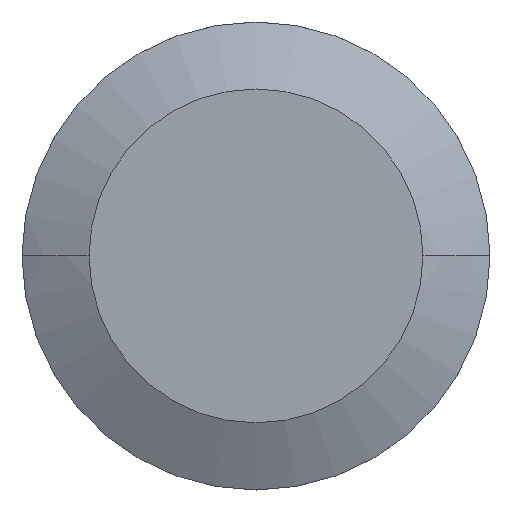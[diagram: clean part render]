
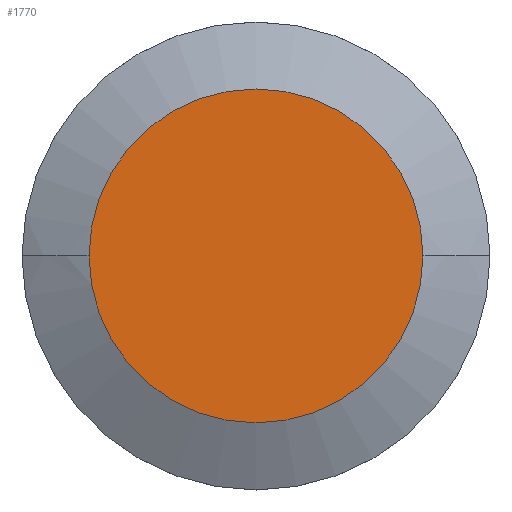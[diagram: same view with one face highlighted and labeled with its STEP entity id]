
A CAD part, top view. The second image highlights one B-rep face of the part: STEP entity #1770.
In plain terms, the highlighted planar face has unit normal (0, 0, 1).
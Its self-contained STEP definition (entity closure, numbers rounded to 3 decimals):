
#1549=CARTESIAN_POINT('',(0.,0.,23.8));
#1550=DIRECTION('',(0.,0.,-1.));
#1551=DIRECTION('',(1.,0.,0.));
#1552=AXIS2_PLACEMENT_3D('',#1549,#1550,#1551);
#1603=CARTESIAN_POINT('',(0.,0.,23.8));
#1604=DIRECTION('',(0.,0.,1.));
#1605=DIRECTION('',(1.,0.,0.));
#1606=AXIS2_PLACEMENT_3D('',#1603,#1604,#1605);
#1660=CARTESIAN_POINT('',(7.848,0.,23.8));
#1662=VERTEX_POINT('',#1660);
#1672=CARTESIAN_POINT('',(-7.848,0.,23.8));
#1674=VERTEX_POINT('',#1672);
#1759=CARTESIAN_POINT('',(0.,0.,23.8));
#1760=DIRECTION('',(0.,0.,-1.));
#1761=DIRECTION('',(1.,0.,0.));
#1762=AXIS2_PLACEMENT_3D('',#1759,#1760,#1761);
#1763=PLANE('',#1762);
#1765=ORIENTED_EDGE('',*,*,#1764,.F.);
#1767=ORIENTED_EDGE('',*,*,#1766,.T.);
#1768=EDGE_LOOP('',(#1765,#1767));
#1769=FACE_OUTER_BOUND('',#1768,.F.);
#1770=ADVANCED_FACE('',(#1769),#1763,.F.);
#1553=CIRCLE('',#1552,7.848);
#1607=CIRCLE('',#1606,7.848);
#1764=EDGE_CURVE('',#1662,#1674,#1607,.T.);
#1766=EDGE_CURVE('',#1662,#1674,#1553,.T.);
